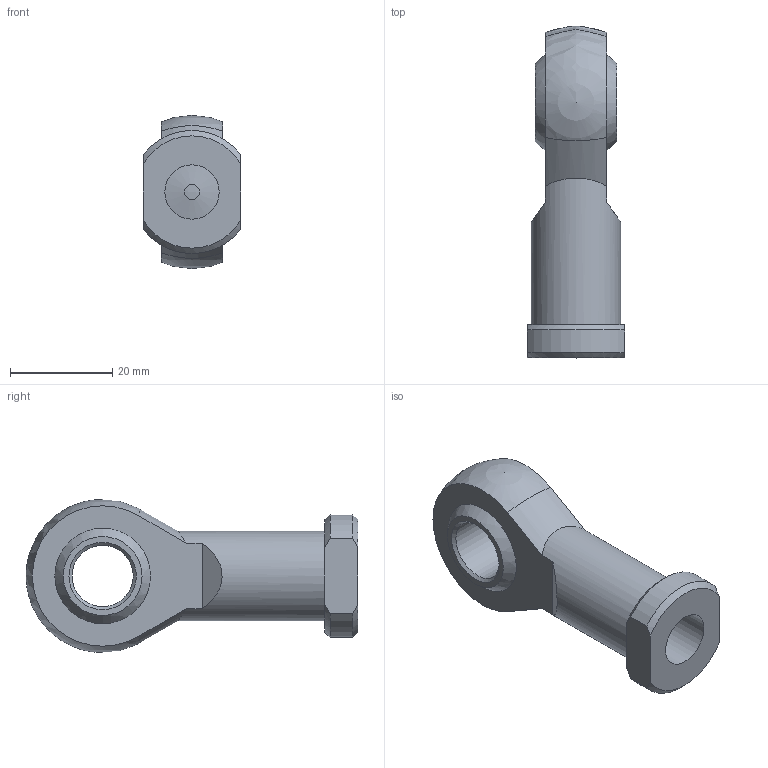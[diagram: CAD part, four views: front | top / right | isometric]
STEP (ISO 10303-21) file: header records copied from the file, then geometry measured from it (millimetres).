
FILE_DESCRIPTION(/* description */ ('Unknown'),/* implementation_level */ '2;1');
FILE_NAME(/* name */ 'WA40_J',/* time_stamp */ '2026-07-17T17:01:38+08:00',/* author */ ('Unknown'),/* organization */ ('Unknown'),/* preprocessor_version */ 'ST-DEVELOPER v16.7',/* originating_system */ 'DEX',/* authorisation */ $);
FILE_SCHEMA (('CONFIG_CONTROL_DESIGN'));
Length unit declared in the file: millimetre
Products named in the file (1): WA40_J
Bounding box: 19 x 65 x 30 mm (x, y, z)
Volume: 14411.8 mm3; surface area: 6196.1 mm2
Topology: 1 solids, 1 shells, 29 faces, 66 edges, 44 vertices
Faces by surface type: plane 10, cylinder 8, cone 7, sphere 4
Full cylindrical faces by diameter (mm): 3 x1, 10.647 x1, 12 x1, 17.5 x1
Entity records: 794 total; most frequent: CARTESIAN_POINT 154, DIRECTION 132, ORIENTED_EDGE 110, AXIS2_PLACEMENT_3D 57, EDGE_CURVE 55, EDGE_LOOP 44, FACE_BOUND 44, VERTEX_POINT 41
